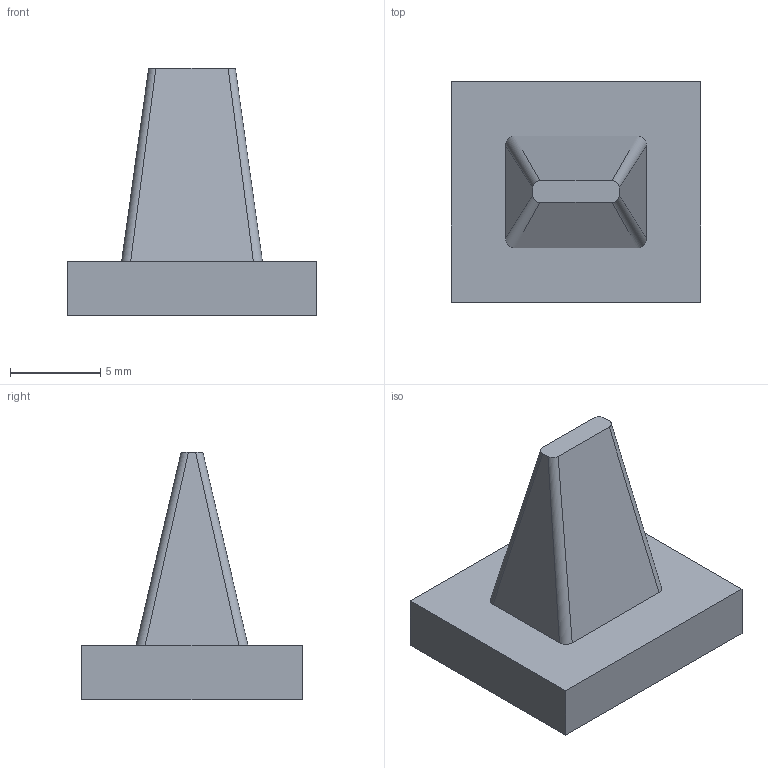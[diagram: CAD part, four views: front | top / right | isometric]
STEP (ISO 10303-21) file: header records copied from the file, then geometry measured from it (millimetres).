
FILE_DESCRIPTION(('Open CASCADE Model'),'2;1');
FILE_NAME('Open CASCADE Shape Model','2026-09-15T13:43:01',('Author'),( 'Open CASCADE'),'Open CASCADE STEP processor 7.7','Open CASCADE 7.7' ,'Unknown');
FILE_SCHEMA(('AUTOMOTIVE_DESIGN { 1 0 10303 214 1 1 1 1 }'));
Length unit declared in the file: millimetre
Products named in the file (1): COMPOUND
Bounding box: 13.8 x 12.2 x 13.71 mm (x, y, z)
Volume: 767.5 mm3; surface area: 661 mm2
Topology: 1 solids, 1 shells, 15 faces, 36 edges, 24 vertices
Faces by surface type: bspline 8, plane 7
Entity records: 1128 total; most frequent: CARTESIAN_POINT 460, DIRECTION 92, ORIENTED_EDGE 72, PCURVE 72, DEFINITIONAL_REPRESENTATION 72, LINE 64, VECTOR 64, EDGE_CURVE 36
